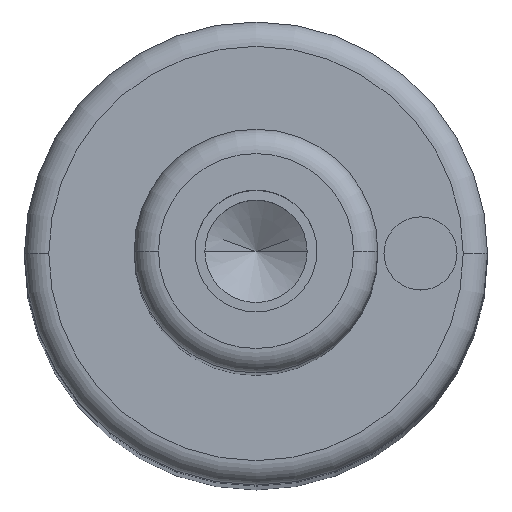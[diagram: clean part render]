
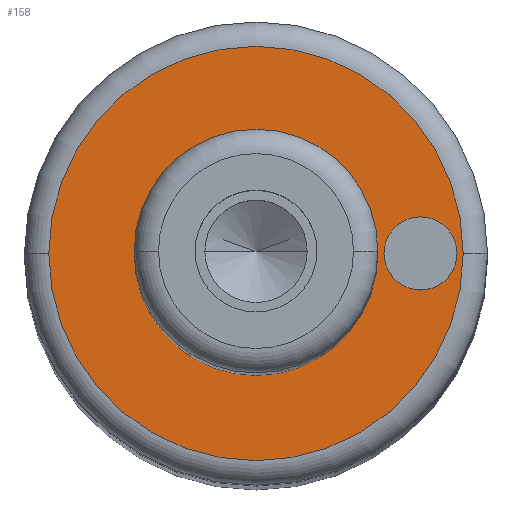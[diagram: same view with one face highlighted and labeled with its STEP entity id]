
A CAD part, top view. The second image highlights one B-rep face of the part: STEP entity #158.
In plain terms, the highlighted planar face has unit normal (0, 0, 1).
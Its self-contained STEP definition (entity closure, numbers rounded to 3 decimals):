
#105=PLANE('',#628);
#113=FACE_BOUND('',#229,.T.);
#114=FACE_BOUND('',#230,.T.);
#115=FACE_BOUND('',#231,.T.);
#158=ADVANCED_FACE('',(#113,#114,#115),#105,.T.);
#229=EDGE_LOOP('',(#375,#376));
#230=EDGE_LOOP('',(#377,#378));
#231=EDGE_LOOP('',(#379,#380));
#259=CIRCLE('',#596,5.);
#260=CIRCLE('',#598,5.);
#264=CIRCLE('',#603,8.5);
#265=CIRCLE('',#605,8.5);
#277=CIRCLE('',#626,1.5);
#278=CIRCLE('',#627,1.5);
#375=ORIENTED_EDGE('',*,*,#488,.F.);
#376=ORIENTED_EDGE('',*,*,#489,.F.);
#377=ORIENTED_EDGE('',*,*,#507,.F.);
#378=ORIENTED_EDGE('',*,*,#508,.F.);
#379=ORIENTED_EDGE('',*,*,#484,.T.);
#380=ORIENTED_EDGE('',*,*,#482,.T.);
#434=VERTEX_POINT('',#875);
#435=VERTEX_POINT('',#877);
#436=VERTEX_POINT('',#883);
#439=VERTEX_POINT('',#888);
#448=VERTEX_POINT('',#927);
#449=VERTEX_POINT('',#928);
#482=EDGE_CURVE('',#435,#434,#259,.T.);
#484=EDGE_CURVE('',#434,#435,#260,.T.);
#488=EDGE_CURVE('',#439,#436,#264,.T.);
#489=EDGE_CURVE('',#436,#439,#265,.T.);
#507=EDGE_CURVE('',#448,#449,#277,.T.);
#508=EDGE_CURVE('',#449,#448,#278,.T.);
#596=AXIS2_PLACEMENT_3D('',#876,#707,#708);
#598=AXIS2_PLACEMENT_3D('',#880,#712,#713);
#603=AXIS2_PLACEMENT_3D('',#889,#722,#723);
#605=AXIS2_PLACEMENT_3D('',#891,#726,#727);
#626=AXIS2_PLACEMENT_3D('',#926,#774,#775);
#627=AXIS2_PLACEMENT_3D('',#929,#776,#777);
#628=AXIS2_PLACEMENT_3D('',#930,#778,#779);
#707=DIRECTION('',(0.,0.,-1.));
#708=DIRECTION('',(0.,1.,0.));
#712=DIRECTION('',(0.,0.,-1.));
#713=DIRECTION('',(0.,-1.,0.));
#722=DIRECTION('',(0.,0.,-1.));
#723=DIRECTION('',(0.,1.,0.));
#726=DIRECTION('',(0.,0.,-1.));
#727=DIRECTION('',(0.,-1.,0.));
#774=DIRECTION('',(0.,0.,1.));
#775=DIRECTION('',(0.,1.,0.));
#776=DIRECTION('',(0.,0.,1.));
#777=DIRECTION('',(0.,-1.,0.));
#778=DIRECTION('',(0.,0.,1.));
#779=DIRECTION('',(0.,-1.,0.));
#875=CARTESIAN_POINT('',(-5.,0.,117.));
#876=CARTESIAN_POINT('',(0.,0.,117.));
#877=CARTESIAN_POINT('',(5.,0.,117.));
#880=CARTESIAN_POINT('',(0.,0.,117.));
#883=CARTESIAN_POINT('',(-8.5,0.,117.));
#888=CARTESIAN_POINT('',(8.5,0.,117.));
#889=CARTESIAN_POINT('',(0.,0.,117.));
#891=CARTESIAN_POINT('',(0.,0.,117.));
#926=CARTESIAN_POINT('',(6.75,0.,117.));
#927=CARTESIAN_POINT('',(5.25,0.,117.));
#928=CARTESIAN_POINT('',(8.25,0.,117.));
#929=CARTESIAN_POINT('',(6.75,0.,117.));
#930=CARTESIAN_POINT('',(0.,0.,117.));
